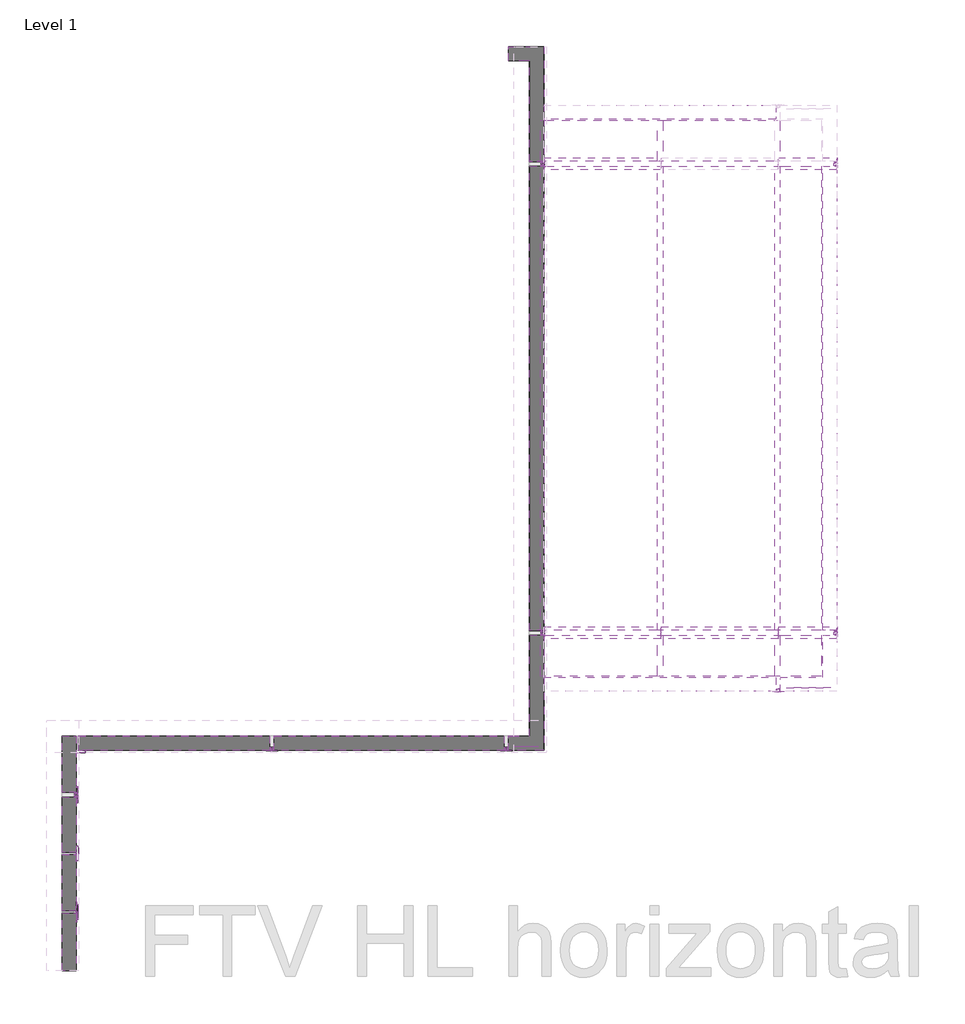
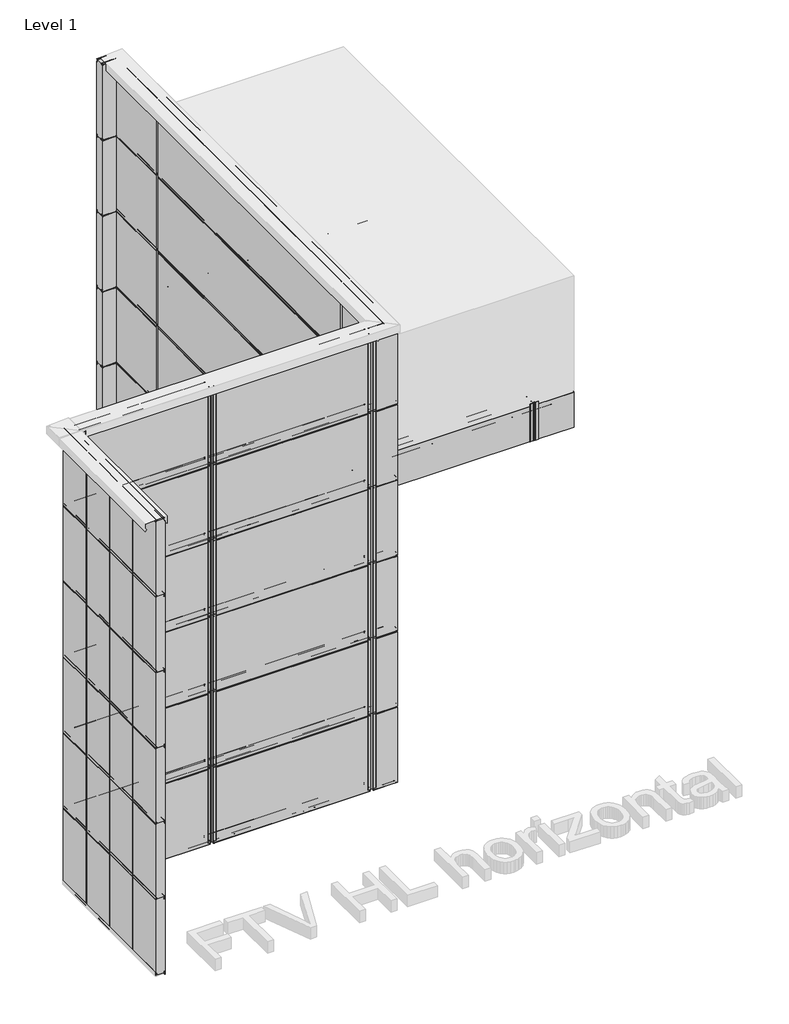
# One storey, part 1 of 12: 73 plates, 56 members.
"""IFC4 building model written with IfcOpenShell, lengths in millimetres."""

from ifc_helpers import new_model, si_unit, origin, place, context, project, spatial, transform, mapped, element, save
from components import rectangular_mullion_bb89daf4, rectangular_mullion_3d825509, rectangular_mullion_a47ee03b, rectangular_mullion_6308ee2a, rectangular_mullion_7144c495, rectangular_mullion_135eb77f, rectangular_mullion_4161400c, rectangular_mullion_02bb17b1, plate_120_ral9006_ral9002_5a172faf, plate_120_ral9006_ral9002_b45e4908, plate_120_ral9006_ral9002_d842c8b2, plate_120_ral9006_ral9002_880d7ee1, plate_120_ral9006_ral9002_aaf2c811, plate_120_ral9006_ral9002_4380068a, plate_120_ral9006_ral9002_0ac37183, plate_120_ral9006_ral9002_72948b92, plate_120_ral9006_ral9002_e030643e, plate_120_ral9006_ral9002_c30a51ce, plate_120_ral9006_ral9002_4ea340ee, plate_120_ral9006_ral9002_0ac6ffa4, plate_120_ral9006_ral9002_7929c230, plate_120_ral9006_ral9002_ec46e2fc, plate_120_ral9006_ral9002_0d4cb285, plate_120_ral9006_ral9002_1deed0a9, plate_120_ral9006_ral9002_22d1957b, tr_empty_empty_7661b975, tr_empty_empty_6663efe4

model = new_model("IFC4")

# Units and contexts
model_context = context("Model", 3, world=origin())
ifc_project = project(units=[si_unit("LENGTHUNIT", "METRE", prefix="MILLI")], contexts=[model_context])

# Site, building, storey
site = spatial("IfcSite", under=ifc_project)
building = spatial("IfcBuilding", under=site)
storey = spatial("IfcBuildingStorey", under=building, Name="Level 1", Elevation=0.0)

# Members
placement = place(None, origin())
rectangular_mullion_shape = rectangular_mullion_bb89daf4(model_context)
element("IfcMember", 1, ObjectType="Rectangular Mullion : TE-H-01_03_Joint HF102", at=placement, inside=storey, context=model_context, shape_type="MappedRepresentation", body=[
    mapped(rectangular_mullion_shape, transform((-1494.1155057, -11030.3930879, 4150.0), x_axis=(0.0, -1.0, 0.0), y_axis=(1.0, 0.0, 0.0), z_axis=(0.0, 0.0, 1.0))),
])
element("IfcMember", 2, ObjectType="Rectangular Mullion : TE-H-01_03_Joint HF102", at=placement, inside=storey, context=model_context, shape_type="MappedRepresentation", body=[
    mapped(rectangular_mullion_shape, transform((-1494.1155057, -7030.3930879, 4150.0), x_axis=(0.0, -1.0, 0.0), y_axis=(1.0, 0.0, 0.0), z_axis=(0.0, 0.0, 1.0))),
])
element("IfcMember", 3, ObjectType="Rectangular Mullion : TE-H-01_03_Joint HF102", at=placement, inside=storey, context=model_context, shape_type="MappedRepresentation", body=[
    mapped(rectangular_mullion_shape, transform((-1994.1155057, -11530.3930879, 4150.0), x_axis=(-1.0, 0.0, 0.0), y_axis=(0.0, -1.0, 0.0), z_axis=(0.0, 0.0, 1.0))),
])
rectangular_mullion_2_shape = rectangular_mullion_3d825509(model_context)
element("IfcMember", 4, ObjectType="Rectangular Mullion : TE-H-01_03_Joint HF102", at=placement, inside=storey, context=model_context, shape_type="MappedRepresentation", body=[
    mapped(rectangular_mullion_2_shape, transform((-1494.1155057, -7030.3930879, 3650.0), x_axis=(0.0, -1.0, 0.0), y_axis=(0.0, 0.0, -1.0), z_axis=(1.0, 0.0, 0.0))),
])
element("IfcMember", 5, ObjectType="Rectangular Mullion : TE-H-01_03_Joint HF102", at=placement, inside=storey, context=model_context, shape_type="MappedRepresentation", body=[
    mapped(rectangular_mullion_2_shape, transform((-1494.1155057, -11030.3930879, 3650.0), x_axis=(0.0, -1.0, 0.0), y_axis=(0.0, 0.0, -1.0), z_axis=(1.0, 0.0, 0.0))),
])
rectangular_mullion_3_shape = rectangular_mullion_a47ee03b(model_context)
element("IfcMember", 6, ObjectType="Rectangular Mullion : TE-H-01_03_Joint HF102", at=placement, inside=storey, context=model_context, shape_type="MappedRepresentation", body=[
    mapped(rectangular_mullion_3_shape, transform((-2994.1155057, -7030.3930879, 3650.0), x_axis=(0.0, -1.0, 0.0), y_axis=(0.0, 0.0, -1.0), z_axis=(1.0, 0.0, 0.0))),
])
element("IfcMember", 7, ObjectType="Rectangular Mullion : TE-H-01_03_Joint HF102", at=placement, inside=storey, context=model_context, shape_type="MappedRepresentation", body=[
    mapped(rectangular_mullion_3_shape, transform((-2994.1155057, -11030.3930879, 3650.0), x_axis=(0.0, -1.0, 0.0), y_axis=(0.0, 0.0, -1.0), z_axis=(1.0, 0.0, 0.0))),
])
element("IfcMember", 8, ObjectType="Rectangular Mullion : TE-H-01_03_Joint HF102", at=placement, inside=storey, context=model_context, shape_type="MappedRepresentation", body=[
    mapped(rectangular_mullion_3_shape, transform((-1994.1155057, -11030.3930879, 3650.0), x_axis=(0.0, -1.0, 0.0), y_axis=(0.0, 0.0, -1.0), z_axis=(1.0, 0.0, 0.0))),
])
rectangular_mullion_4_shape = rectangular_mullion_6308ee2a(model_context)
element("IfcMember", 9, ObjectType="Rectangular Mullion : TE-H-01_03_Joint HF102", at=placement, inside=storey, context=model_context, shape_type="MappedRepresentation", body=[
    mapped(rectangular_mullion_4_shape, transform((-3994.1155057, -7030.3930879, 1160.0), x_axis=(0.0, -1.0, 0.0), y_axis=(-1.0, 0.0, 0.0), z_axis=(0.0, 0.0, -1.0))),
])
element("IfcMember", 10, ObjectType="Rectangular Mullion : TE-H-01_03_Joint HF102", at=placement, inside=storey, context=model_context, shape_type="MappedRepresentation", body=[
    mapped(rectangular_mullion_4_shape, transform((-3994.1155057, -7030.3930879, 2160.0), x_axis=(0.0, -1.0, 0.0), y_axis=(-1.0, 0.0, 0.0), z_axis=(0.0, 0.0, -1.0))),
])
element("IfcMember", 11, ObjectType="Rectangular Mullion : TE-H-01_03_Joint HF102", at=placement, inside=storey, context=model_context, shape_type="MappedRepresentation", body=[
    mapped(rectangular_mullion_4_shape, transform((-3994.1155057, -7030.3930879, 3160.0), x_axis=(0.0, -1.0, 0.0), y_axis=(-1.0, 0.0, 0.0), z_axis=(0.0, 0.0, -1.0))),
])
element("IfcMember", 12, ObjectType="Rectangular Mullion : TE-H-01_03_Joint HF102", at=placement, inside=storey, context=model_context, shape_type="MappedRepresentation", body=[
    mapped(rectangular_mullion_4_shape, transform((-3994.1155057, -7030.3930879, 4160.0), x_axis=(0.0, -1.0, 0.0), y_axis=(-1.0, 0.0, 0.0), z_axis=(0.0, 0.0, -1.0))),
])
element("IfcMember", 13, ObjectType="Rectangular Mullion : TE-H-01_03_Joint HF102", at=placement, inside=storey, context=model_context, shape_type="MappedRepresentation", body=[
    mapped(rectangular_mullion_4_shape, transform((-3994.1155057, -11030.3930879, 1160.0), x_axis=(0.0, -1.0, 0.0), y_axis=(-1.0, 0.0, 0.0), z_axis=(0.0, 0.0, -1.0))),
])
element("IfcMember", 14, ObjectType="Rectangular Mullion : TE-H-01_03_Joint HF102", at=placement, inside=storey, context=model_context, shape_type="MappedRepresentation", body=[
    mapped(rectangular_mullion_4_shape, transform((-3994.1155057, -11030.3930879, 2160.0), x_axis=(0.0, -1.0, 0.0), y_axis=(-1.0, 0.0, 0.0), z_axis=(0.0, 0.0, -1.0))),
])
element("IfcMember", 15, ObjectType="Rectangular Mullion : TE-H-01_03_Joint HF102", at=placement, inside=storey, context=model_context, shape_type="MappedRepresentation", body=[
    mapped(rectangular_mullion_4_shape, transform((-3994.1155057, -11030.3930879, 3160.0), x_axis=(0.0, -1.0, 0.0), y_axis=(-1.0, 0.0, 0.0), z_axis=(0.0, 0.0, -1.0))),
])
element("IfcMember", 16, ObjectType="Rectangular Mullion : TE-H-01_03_Joint HF102", at=placement, inside=storey, context=model_context, shape_type="MappedRepresentation", body=[
    mapped(rectangular_mullion_4_shape, transform((-3994.1155057, -11030.3930879, 4160.0), x_axis=(0.0, -1.0, 0.0), y_axis=(-1.0, 0.0, 0.0), z_axis=(0.0, 0.0, -1.0))),
])
element("IfcMember", 17, ObjectType="Rectangular Mullion : TE-H-01_03_Joint HF102", at=placement, inside=storey, context=model_context, shape_type="MappedRepresentation", body=[
    mapped(rectangular_mullion_4_shape, transform((-4314.1155057, -12030.3930879, 1160.0), x_axis=(-1.0, 0.0, 0.0), y_axis=(0.0, 1.0, 0.0), z_axis=(0.0, 0.0, -1.0))),
])
element("IfcMember", 18, ObjectType="Rectangular Mullion : TE-H-01_03_Joint HF102", at=placement, inside=storey, context=model_context, shape_type="MappedRepresentation", body=[
    mapped(rectangular_mullion_4_shape, transform((-4314.1155057, -12030.3930879, 2160.0), x_axis=(-1.0, 0.0, 0.0), y_axis=(0.0, 1.0, 0.0), z_axis=(0.0, 0.0, -1.0))),
])
element("IfcMember", 19, ObjectType="Rectangular Mullion : TE-H-01_03_Joint HF102", at=placement, inside=storey, context=model_context, shape_type="MappedRepresentation", body=[
    mapped(rectangular_mullion_4_shape, transform((-4314.1155057, -12030.3930879, 3160.0), x_axis=(-1.0, 0.0, 0.0), y_axis=(0.0, 1.0, 0.0), z_axis=(0.0, 0.0, -1.0))),
])
element("IfcMember", 20, ObjectType="Rectangular Mullion : TE-H-01_03_Joint HF102", at=placement, inside=storey, context=model_context, shape_type="MappedRepresentation", body=[
    mapped(rectangular_mullion_4_shape, transform((-4314.1155057, -12030.3930879, 4160.0), x_axis=(-1.0, 0.0, 0.0), y_axis=(0.0, 1.0, 0.0), z_axis=(0.0, 0.0, -1.0))),
])
element("IfcMember", 21, ObjectType="Rectangular Mullion : TE-H-01_03_Joint HF102", at=placement, inside=storey, context=model_context, shape_type="MappedRepresentation", body=[
    mapped(rectangular_mullion_4_shape, transform((-6314.1155057, -12030.3930879, 1160.0), x_axis=(-1.0, 0.0, 0.0), y_axis=(0.0, 1.0, 0.0), z_axis=(0.0, 0.0, -1.0))),
])
element("IfcMember", 22, ObjectType="Rectangular Mullion : TE-H-01_03_Joint HF102", at=placement, inside=storey, context=model_context, shape_type="MappedRepresentation", body=[
    mapped(rectangular_mullion_4_shape, transform((-6314.1155057, -12030.3930879, 2160.0), x_axis=(-1.0, 0.0, 0.0), y_axis=(0.0, 1.0, 0.0), z_axis=(0.0, 0.0, -1.0))),
])
element("IfcMember", 23, ObjectType="Rectangular Mullion : TE-H-01_03_Joint HF102", at=placement, inside=storey, context=model_context, shape_type="MappedRepresentation", body=[
    mapped(rectangular_mullion_4_shape, transform((-6314.1155057, -12030.3930879, 3160.0), x_axis=(-1.0, 0.0, 0.0), y_axis=(0.0, 1.0, 0.0), z_axis=(0.0, 0.0, -1.0))),
])
element("IfcMember", 24, ObjectType="Rectangular Mullion : TE-H-01_03_Joint HF102", at=placement, inside=storey, context=model_context, shape_type="MappedRepresentation", body=[
    mapped(rectangular_mullion_4_shape, transform((-6314.1155057, -12030.3930879, 4160.0), x_axis=(-1.0, 0.0, 0.0), y_axis=(0.0, 1.0, 0.0), z_axis=(0.0, 0.0, -1.0))),
])
rectangular_mullion_5_shape = rectangular_mullion_7144c495(model_context)
element("IfcMember", 25, ObjectType="Rectangular Mullion : TE-H-01_04_Joint HF140", at=placement, inside=storey, context=model_context, shape_type="MappedRepresentation", body=[
    mapped(rectangular_mullion_5_shape, transform((-7984.1155057, -12411.1930879, 1160.0), x_axis=(0.0, -1.0, 0.0), y_axis=(-1.0, 0.0, 0.0), z_axis=(0.0, 0.0, -1.0))),
])
element("IfcMember", 26, ObjectType="Rectangular Mullion : TE-H-01_04_Joint HF140", at=placement, inside=storey, context=model_context, shape_type="MappedRepresentation", body=[
    mapped(rectangular_mullion_5_shape, transform((-7984.1155057, -12411.1930879, 2160.0), x_axis=(0.0, -1.0, 0.0), y_axis=(-1.0, 0.0, 0.0), z_axis=(0.0, 0.0, -1.0))),
])
element("IfcMember", 27, ObjectType="Rectangular Mullion : TE-H-01_04_Joint HF140", at=placement, inside=storey, context=model_context, shape_type="MappedRepresentation", body=[
    mapped(rectangular_mullion_5_shape, transform((-7984.1155057, -12411.1930879, 3160.0), x_axis=(0.0, -1.0, 0.0), y_axis=(-1.0, 0.0, 0.0), z_axis=(0.0, 0.0, -1.0))),
])
element("IfcMember", 28, ObjectType="Rectangular Mullion : TE-H-01_04_Joint HF140", at=placement, inside=storey, context=model_context, shape_type="MappedRepresentation", body=[
    mapped(rectangular_mullion_5_shape, transform((-7984.1155057, -12411.1930879, 4160.0), x_axis=(0.0, -1.0, 0.0), y_axis=(-1.0, 0.0, 0.0), z_axis=(0.0, 0.0, -1.0))),
])
rectangular_mullion_6_shape = rectangular_mullion_135eb77f(model_context)
element("IfcMember", 29, ObjectType="Rectangular Mullion : TE-H-01_01_Joint flashing", at=placement, inside=storey, context=model_context, shape_type="MappedRepresentation", body=[
    mapped(rectangular_mullion_6_shape, transform((-7984.1155057, -13411.1930879, 1160.0), x_axis=(0.0, -1.0, 0.0), y_axis=(-1.0, 0.0, 0.0), z_axis=(0.0, 0.0, -1.0))),
])
element("IfcMember", 30, ObjectType="Rectangular Mullion : TE-H-01_01_Joint flashing", at=placement, inside=storey, context=model_context, shape_type="MappedRepresentation", body=[
    mapped(rectangular_mullion_6_shape, transform((-7984.1155057, -13411.1930879, 2160.0), x_axis=(0.0, -1.0, 0.0), y_axis=(-1.0, 0.0, 0.0), z_axis=(0.0, 0.0, -1.0))),
])
element("IfcMember", 31, ObjectType="Rectangular Mullion : TE-H-01_01_Joint flashing", at=placement, inside=storey, context=model_context, shape_type="MappedRepresentation", body=[
    mapped(rectangular_mullion_6_shape, transform((-7984.1155057, -13411.1930879, 3160.0), x_axis=(0.0, -1.0, 0.0), y_axis=(-1.0, 0.0, 0.0), z_axis=(0.0, 0.0, -1.0))),
])
element("IfcMember", 32, ObjectType="Rectangular Mullion : TE-H-01_01_Joint flashing", at=placement, inside=storey, context=model_context, shape_type="MappedRepresentation", body=[
    mapped(rectangular_mullion_6_shape, transform((-7984.1155057, -13411.1930879, 4160.0), x_axis=(0.0, -1.0, 0.0), y_axis=(-1.0, 0.0, 0.0), z_axis=(0.0, 0.0, -1.0))),
])
rectangular_mullion_7_shape = rectangular_mullion_4161400c(model_context)
element("IfcMember", 33, ObjectType="Rectangular Mullion : TE-H-01_02_Joint flashing i", at=placement, inside=storey, context=model_context, shape_type="MappedRepresentation", body=[
    mapped(rectangular_mullion_7_shape, transform((-7984.1155057, -12911.1930879, 1160.0), x_axis=(0.0, -1.0, 0.0), y_axis=(-1.0, 0.0, 0.0), z_axis=(0.0, 0.0, -1.0))),
])
element("IfcMember", 34, ObjectType="Rectangular Mullion : TE-H-01_02_Joint flashing i", at=placement, inside=storey, context=model_context, shape_type="MappedRepresentation", body=[
    mapped(rectangular_mullion_7_shape, transform((-7984.1155057, -12911.1930879, 2160.0), x_axis=(0.0, -1.0, 0.0), y_axis=(-1.0, 0.0, 0.0), z_axis=(0.0, 0.0, -1.0))),
])
element("IfcMember", 35, ObjectType="Rectangular Mullion : TE-H-01_02_Joint flashing i", at=placement, inside=storey, context=model_context, shape_type="MappedRepresentation", body=[
    mapped(rectangular_mullion_7_shape, transform((-7984.1155057, -12911.1930879, 3160.0), x_axis=(0.0, -1.0, 0.0), y_axis=(-1.0, 0.0, 0.0), z_axis=(0.0, 0.0, -1.0))),
])
element("IfcMember", 36, ObjectType="Rectangular Mullion : TE-H-01_02_Joint flashing i", at=placement, inside=storey, context=model_context, shape_type="MappedRepresentation", body=[
    mapped(rectangular_mullion_7_shape, transform((-7984.1155057, -12911.1930879, 4160.0), x_axis=(0.0, -1.0, 0.0), y_axis=(-1.0, 0.0, 0.0), z_axis=(0.0, 0.0, -1.0))),
])
rectangular_mullion_8_shape = rectangular_mullion_02bb17b1(model_context)
element("IfcMember", 37, ObjectType="Rectangular Mullion : TE-H-05_02_Internal corner i L", at=placement, inside=storey, context=model_context, shape_type="MappedRepresentation", body=[
    mapped(rectangular_mullion_8_shape, transform((-7984.1155057, -12030.3930879, 1160.0), x_axis=(-1.0, 0.0, 0.0), y_axis=(0.0, 1.0, 0.0), z_axis=(0.0, 0.0, -1.0))),
])
element("IfcMember", 38, ObjectType="Rectangular Mullion : TE-H-05_02_Internal corner i L", at=placement, inside=storey, context=model_context, shape_type="MappedRepresentation", body=[
    mapped(rectangular_mullion_8_shape, transform((-7984.1155057, -12030.3930879, 2160.0), x_axis=(-1.0, 0.0, 0.0), y_axis=(0.0, 1.0, 0.0), z_axis=(0.0, 0.0, -1.0))),
])
element("IfcMember", 39, ObjectType="Rectangular Mullion : TE-H-05_02_Internal corner i L", at=placement, inside=storey, context=model_context, shape_type="MappedRepresentation", body=[
    mapped(rectangular_mullion_8_shape, transform((-7984.1155057, -12030.3930879, 3160.0), x_axis=(-1.0, 0.0, 0.0), y_axis=(0.0, 1.0, 0.0), z_axis=(0.0, 0.0, -1.0))),
])
element("IfcMember", 40, ObjectType="Rectangular Mullion : TE-H-05_02_Internal corner i L", at=placement, inside=storey, context=model_context, shape_type="MappedRepresentation", body=[
    mapped(rectangular_mullion_8_shape, transform((-7984.1155057, -12030.3930879, 4160.0), x_axis=(-1.0, 0.0, 0.0), y_axis=(0.0, 1.0, 0.0), z_axis=(0.0, 0.0, -1.0))),
])
element("IfcMember", 41, ObjectType="Rectangular Mullion : TE-H-01_04_Joint HF140", at=placement, inside=storey, context=model_context, shape_type="MappedRepresentation", body=[
    mapped(rectangular_mullion_5_shape, transform((-7984.1155057, -12411.1930879, 160.0), x_axis=(0.0, -1.0, 0.0), y_axis=(-1.0, 0.0, 0.0), z_axis=(0.0, 0.0, -1.0))),
])
element("IfcMember", 42, ObjectType="Rectangular Mullion : TE-H-01_04_Joint HF140", at=placement, inside=storey, context=model_context, shape_type="MappedRepresentation", body=[
    mapped(rectangular_mullion_5_shape, transform((-7984.1155057, -12411.1930879, 5160.0), x_axis=(0.0, -1.0, 0.0), y_axis=(-1.0, 0.0, 0.0), z_axis=(0.0, 0.0, -1.0))),
])
element("IfcMember", 43, ObjectType="Rectangular Mullion : TE-H-01_01_Joint flashing", at=placement, inside=storey, context=model_context, shape_type="MappedRepresentation", body=[
    mapped(rectangular_mullion_6_shape, transform((-7984.1155057, -13411.1930879, 160.0), x_axis=(0.0, -1.0, 0.0), y_axis=(-1.0, 0.0, 0.0), z_axis=(0.0, 0.0, -1.0))),
])
element("IfcMember", 44, ObjectType="Rectangular Mullion : TE-H-01_01_Joint flashing", at=placement, inside=storey, context=model_context, shape_type="MappedRepresentation", body=[
    mapped(rectangular_mullion_6_shape, transform((-7984.1155057, -13411.1930879, 5160.0), x_axis=(0.0, -1.0, 0.0), y_axis=(-1.0, 0.0, 0.0), z_axis=(0.0, 0.0, -1.0))),
])
element("IfcMember", 45, ObjectType="Rectangular Mullion : TE-H-01_02_Joint flashing i", at=placement, inside=storey, context=model_context, shape_type="MappedRepresentation", body=[
    mapped(rectangular_mullion_7_shape, transform((-7984.1155057, -12911.1930879, 160.0), x_axis=(0.0, -1.0, 0.0), y_axis=(-1.0, 0.0, 0.0), z_axis=(0.0, 0.0, -1.0))),
])
element("IfcMember", 46, ObjectType="Rectangular Mullion : TE-H-01_02_Joint flashing i", at=placement, inside=storey, context=model_context, shape_type="MappedRepresentation", body=[
    mapped(rectangular_mullion_7_shape, transform((-7984.1155057, -12911.1930879, 5160.0), x_axis=(0.0, -1.0, 0.0), y_axis=(-1.0, 0.0, 0.0), z_axis=(0.0, 0.0, -1.0))),
])
element("IfcMember", 47, ObjectType="Rectangular Mullion : TE-H-01_03_Joint HF102", at=placement, inside=storey, context=model_context, shape_type="MappedRepresentation", body=[
    mapped(rectangular_mullion_4_shape, transform((-3994.1155057, -7030.3930879, 160.0), x_axis=(0.0, -1.0, 0.0), y_axis=(-1.0, 0.0, 0.0), z_axis=(0.0, 0.0, -1.0))),
])
element("IfcMember", 48, ObjectType="Rectangular Mullion : TE-H-01_03_Joint HF102", at=placement, inside=storey, context=model_context, shape_type="MappedRepresentation", body=[
    mapped(rectangular_mullion_4_shape, transform((-3994.1155057, -11030.3930879, 160.0), x_axis=(0.0, -1.0, 0.0), y_axis=(-1.0, 0.0, 0.0), z_axis=(0.0, 0.0, -1.0))),
])
element("IfcMember", 49, ObjectType="Rectangular Mullion : TE-H-01_03_Joint HF102", at=placement, inside=storey, context=model_context, shape_type="MappedRepresentation", body=[
    mapped(rectangular_mullion_4_shape, transform((-4314.1155057, -12030.3930879, 160.0), x_axis=(-1.0, 0.0, 0.0), y_axis=(0.0, 1.0, 0.0), z_axis=(0.0, 0.0, -1.0))),
])
element("IfcMember", 50, ObjectType="Rectangular Mullion : TE-H-01_03_Joint HF102", at=placement, inside=storey, context=model_context, shape_type="MappedRepresentation", body=[
    mapped(rectangular_mullion_4_shape, transform((-6314.1155057, -12030.3930879, 160.0), x_axis=(-1.0, 0.0, 0.0), y_axis=(0.0, 1.0, 0.0), z_axis=(0.0, 0.0, -1.0))),
])
element("IfcMember", 51, ObjectType="Rectangular Mullion : TE-H-01_03_Joint HF102", at=placement, inside=storey, context=model_context, shape_type="MappedRepresentation", body=[
    mapped(rectangular_mullion_4_shape, transform((-3994.1155057, -7030.3930879, 5160.0), x_axis=(0.0, -1.0, 0.0), y_axis=(-1.0, 0.0, 0.0), z_axis=(0.0, 0.0, -1.0))),
])
element("IfcMember", 52, ObjectType="Rectangular Mullion : TE-H-01_03_Joint HF102", at=placement, inside=storey, context=model_context, shape_type="MappedRepresentation", body=[
    mapped(rectangular_mullion_4_shape, transform((-3994.1155057, -11030.3930879, 5160.0), x_axis=(0.0, -1.0, 0.0), y_axis=(-1.0, 0.0, 0.0), z_axis=(0.0, 0.0, -1.0))),
])
element("IfcMember", 53, ObjectType="Rectangular Mullion : TE-H-01_03_Joint HF102", at=placement, inside=storey, context=model_context, shape_type="MappedRepresentation", body=[
    mapped(rectangular_mullion_4_shape, transform((-4314.1155057, -12030.3930879, 5160.0), x_axis=(-1.0, 0.0, 0.0), y_axis=(0.0, 1.0, 0.0), z_axis=(0.0, 0.0, -1.0))),
])
element("IfcMember", 54, ObjectType="Rectangular Mullion : TE-H-01_03_Joint HF102", at=placement, inside=storey, context=model_context, shape_type="MappedRepresentation", body=[
    mapped(rectangular_mullion_4_shape, transform((-6314.1155057, -12030.3930879, 5160.0), x_axis=(-1.0, 0.0, 0.0), y_axis=(0.0, 1.0, 0.0), z_axis=(0.0, 0.0, -1.0))),
])
element("IfcMember", 55, ObjectType="Rectangular Mullion : TE-H-05_02_Internal corner i L", at=placement, inside=storey, context=model_context, shape_type="MappedRepresentation", body=[
    mapped(rectangular_mullion_8_shape, transform((-7984.1155057, -12030.3930879, 160.0), x_axis=(-1.0, 0.0, 0.0), y_axis=(0.0, 1.0, 0.0), z_axis=(0.0, 0.0, -1.0))),
])
element("IfcMember", 56, ObjectType="Rectangular Mullion : TE-H-05_02_Internal corner i L", at=placement, inside=storey, context=model_context, shape_type="MappedRepresentation", body=[
    mapped(rectangular_mullion_8_shape, transform((-7984.1155057, -12030.3930879, 5160.0), x_axis=(-1.0, 0.0, 0.0), y_axis=(0.0, 1.0, 0.0), z_axis=(0.0, 0.0, -1.0))),
])

# Plates
plate_120_ral9006_ral9002_shape = plate_120_ral9006_ral9002_5a172faf(model_context)
element("IfcPlate", 57, ObjectType="TR_C_H_FHL_Panel : 120/RAL9006/RAL9002", at=placement, inside=storey, context=model_context, shape_type="MappedRepresentation", body=[
    mapped(plate_120_ral9006_ral9002_shape, transform((-3994.1155057, -9030.3930879, 160.0), x_axis=(0.0, -1.0, 0.0), y_axis=(1.0, 0.0, 0.0), z_axis=(0.0, 0.0, 1.0))),
])
element("IfcPlate", 58, ObjectType="TR_C_H_FHL_Panel : 120/RAL9006/RAL9002", at=placement, inside=storey, context=model_context, shape_type="MappedRepresentation", body=[
    mapped(plate_120_ral9006_ral9002_shape, transform((-3994.1155057, -9030.3930879, 1160.0), x_axis=(0.0, -1.0, 0.0), y_axis=(1.0, 0.0, 0.0), z_axis=(0.0, 0.0, 1.0))),
])
element("IfcPlate", 59, ObjectType="TR_C_H_FHL_Panel : 120/RAL9006/RAL9002", at=placement, inside=storey, context=model_context, shape_type="MappedRepresentation", body=[
    mapped(plate_120_ral9006_ral9002_shape, transform((-3994.1155057, -9030.3930879, 2160.0), x_axis=(0.0, -1.0, 0.0), y_axis=(1.0, 0.0, 0.0), z_axis=(0.0, 0.0, 1.0))),
])
element("IfcPlate", 60, ObjectType="TR_C_H_FHL_Panel : 120/RAL9006/RAL9002", at=placement, inside=storey, context=model_context, shape_type="MappedRepresentation", body=[
    mapped(plate_120_ral9006_ral9002_shape, transform((-3994.1155057, -9030.3930879, 3160.0), x_axis=(0.0, -1.0, 0.0), y_axis=(1.0, 0.0, 0.0), z_axis=(0.0, 0.0, 1.0))),
])
element("IfcPlate", 61, ObjectType="TR_C_H_FHL_Panel : 120/RAL9006/RAL9002", at=placement, inside=storey, context=model_context, shape_type="MappedRepresentation", body=[
    mapped(plate_120_ral9006_ral9002_shape, transform((-3994.1155057, -9030.3930879, 4160.0), x_axis=(0.0, -1.0, 0.0), y_axis=(1.0, 0.0, 0.0), z_axis=(0.0, 0.0, 1.0))),
])
element("IfcPlate", 62, ObjectType="TR_C_H_FHL_Panel : 120/RAL9006/RAL9002", at=placement, inside=storey, context=model_context, shape_type="MappedRepresentation", body=[
    mapped(plate_120_ral9006_ral9002_shape, transform((-3994.1155057, -9030.3930879, 3650.0), x_axis=(0.0, -1.0, 0.0), y_axis=(0.0, 0.0, -1.0), z_axis=(1.0, 0.0, 0.0))),
])
element("IfcPlate", 63, ObjectType="TR_C_H_FHL_Panel : 120/RAL9006/RAL9002", at=placement, inside=storey, context=model_context, shape_type="MappedRepresentation", body=[
    mapped(plate_120_ral9006_ral9002_shape, transform((-2994.1155057, -9030.3930879, 3650.0), x_axis=(0.0, -1.0, 0.0), y_axis=(0.0, 0.0, -1.0), z_axis=(1.0, 0.0, 0.0))),
])
element("IfcPlate", 64, ObjectType="TR_C_H_FHL_Panel : 120/RAL9006/RAL9002", at=placement, inside=storey, context=model_context, shape_type="MappedRepresentation", body=[
    mapped(plate_120_ral9006_ral9002_shape, transform((-3994.1155057, -9030.3930879, 5160.0), x_axis=(0.0, -1.0, 0.0), y_axis=(1.0, 0.0, 0.0), z_axis=(0.0, 0.0, 1.0))),
])
plate_120_ral9006_ral9002_2_shape = plate_120_ral9006_ral9002_b45e4908(model_context)
element("IfcPlate", 65, ObjectType="TR_C_H_FHL_Panel : 120/RAL9006/RAL9002", at=placement, inside=storey, context=model_context, shape_type="MappedRepresentation", body=[
    mapped(plate_120_ral9006_ral9002_2_shape, transform((-3994.1155057, -6770.3930879, 3650.0), x_axis=(0.0, -1.0, 0.0), y_axis=(0.0, 0.0, -1.0), z_axis=(1.0, 0.0, 0.0))),
])
element("IfcPlate", 66, ObjectType="TR_C_H_FHL_Panel : 120/RAL9006/RAL9002", at=placement, inside=storey, context=model_context, shape_type="MappedRepresentation", body=[
    mapped(plate_120_ral9006_ral9002_2_shape, transform((-2994.1155057, -6770.3930879, 3650.0), x_axis=(0.0, -1.0, 0.0), y_axis=(0.0, 0.0, -1.0), z_axis=(1.0, 0.0, 0.0))),
])
plate_120_ral9006_ral9002_3_shape = plate_120_ral9006_ral9002_d842c8b2(model_context)
element("IfcPlate", 67, ObjectType="TR_C_H_FHL_Panel : 120/RAL9006/RAL9002", at=placement, inside=storey, context=model_context, shape_type="MappedRepresentation", body=[
    mapped(plate_120_ral9006_ral9002_3_shape, transform((-3994.1155057, -11290.3930879, 3650.0), x_axis=(0.0, -1.0, 0.0), y_axis=(0.0, 0.0, -1.0), z_axis=(1.0, 0.0, 0.0))),
])
element("IfcPlate", 68, ObjectType="TR_C_H_FHL_Panel : 120/RAL9006/RAL9002", at=placement, inside=storey, context=model_context, shape_type="MappedRepresentation", body=[
    mapped(plate_120_ral9006_ral9002_3_shape, transform((-2994.1155057, -11290.3930879, 3650.0), x_axis=(0.0, -1.0, 0.0), y_axis=(0.0, 0.0, -1.0), z_axis=(1.0, 0.0, 0.0))),
])
plate_120_ral9006_ral9002_4_shape = plate_120_ral9006_ral9002_880d7ee1(model_context)
element("IfcPlate", 69, ObjectType="TR_C_H_FHL_Panel_cut_GROOVE : 120/RAL9006/RAL9002", at=placement, inside=storey, context=model_context, shape_type="MappedRepresentation", body=[
    mapped(plate_120_ral9006_ral9002_4_shape, transform((-1994.1155057, -9030.3930879, 3650.0), x_axis=(0.0, -1.0, 0.0), y_axis=(0.0, 0.0, -1.0), z_axis=(1.0, 0.0, 0.0))),
])
plate_120_ral9006_ral9002_5_shape = plate_120_ral9006_ral9002_aaf2c811(model_context)
element("IfcPlate", 70, ObjectType="TR_C_H_FHL_Panel_cut_GROOVE : 120/RAL9006/RAL9002", at=placement, inside=storey, context=model_context, shape_type="MappedRepresentation", body=[
    mapped(plate_120_ral9006_ral9002_5_shape, transform((-1994.1155057, -11290.3930879, 3650.0), x_axis=(0.0, -1.0, 0.0), y_axis=(0.0, 0.0, -1.0), z_axis=(1.0, 0.0, 0.0))),
])
plate_120_ral9006_ral9002_6_shape = plate_120_ral9006_ral9002_4380068a(model_context)
element("IfcPlate", 71, ObjectType="TR_C_H_FHL_Panel_cut_TONGUE : 120/RAL9006/RAL9002", at=placement, inside=storey, context=model_context, shape_type="MappedRepresentation", body=[
    mapped(plate_120_ral9006_ral9002_6_shape, transform((-3004.1155057, -6530.3930879, 3650.0), x_axis=(1.0, 0.0, 0.0), y_axis=(0.0, 1.0, 0.0), z_axis=(0.0, 0.0, 1.0))),
])
element("IfcPlate", 72, ObjectType="TR_C_H_FHL_Panel_cut_TONGUE : 120/RAL9006/RAL9002", at=placement, inside=storey, context=model_context, shape_type="MappedRepresentation", body=[
    mapped(plate_120_ral9006_ral9002_6_shape, transform((-3004.1155057, -11530.3930879, 3650.0), x_axis=(-1.0, 0.0, 0.0), y_axis=(0.0, -1.0, 0.0), z_axis=(0.0, 0.0, 1.0))),
])
plate_120_ral9006_ral9002_7_shape = plate_120_ral9006_ral9002_0ac37183(model_context)
element("IfcPlate", 73, ObjectType="TR_C_H_FHL_Panel_cut_TONGUE : 120/RAL9006/RAL9002", at=placement, inside=storey, context=model_context, shape_type="MappedRepresentation", body=[
    mapped(plate_120_ral9006_ral9002_7_shape, transform((-1494.1155057, -9030.3930879, 3650.0), x_axis=(0.0, -1.0, 0.0), y_axis=(1.0, 0.0, 0.0), z_axis=(0.0, 0.0, 1.0))),
])
plate_120_ral9006_ral9002_8_shape = plate_120_ral9006_ral9002_72948b92(model_context)
element("IfcPlate", 74, ObjectType="TR_C_H_FHL_Panel : 120/RAL9006/RAL9002", at=placement, inside=storey, context=model_context, shape_type="MappedRepresentation", body=[
    mapped(plate_120_ral9006_ral9002_8_shape, transform((-7984.1155057, -12151.1930879, 160.0), x_axis=(0.0, -1.0, 0.0), y_axis=(1.0, 0.0, 0.0), z_axis=(0.0, 0.0, 1.0))),
])
element("IfcPlate", 75, ObjectType="TR_C_H_FHL_Panel : 120/RAL9006/RAL9002", at=placement, inside=storey, context=model_context, shape_type="MappedRepresentation", body=[
    mapped(plate_120_ral9006_ral9002_8_shape, transform((-7984.1155057, -12151.1930879, 1160.0), x_axis=(0.0, -1.0, 0.0), y_axis=(1.0, 0.0, 0.0), z_axis=(0.0, 0.0, 1.0))),
])
element("IfcPlate", 76, ObjectType="TR_C_H_FHL_Panel : 120/RAL9006/RAL9002", at=placement, inside=storey, context=model_context, shape_type="MappedRepresentation", body=[
    mapped(plate_120_ral9006_ral9002_8_shape, transform((-7984.1155057, -12151.1930879, 2160.0), x_axis=(0.0, -1.0, 0.0), y_axis=(1.0, 0.0, 0.0), z_axis=(0.0, 0.0, 1.0))),
])
element("IfcPlate", 77, ObjectType="TR_C_H_FHL_Panel : 120/RAL9006/RAL9002", at=placement, inside=storey, context=model_context, shape_type="MappedRepresentation", body=[
    mapped(plate_120_ral9006_ral9002_8_shape, transform((-7984.1155057, -12151.1930879, 3160.0), x_axis=(0.0, -1.0, 0.0), y_axis=(1.0, 0.0, 0.0), z_axis=(0.0, 0.0, 1.0))),
])
element("IfcPlate", 78, ObjectType="TR_C_H_FHL_Panel : 120/RAL9006/RAL9002", at=placement, inside=storey, context=model_context, shape_type="MappedRepresentation", body=[
    mapped(plate_120_ral9006_ral9002_8_shape, transform((-7984.1155057, -12151.1930879, 4160.0), x_axis=(0.0, -1.0, 0.0), y_axis=(1.0, 0.0, 0.0), z_axis=(0.0, 0.0, 1.0))),
])
element("IfcPlate", 79, ObjectType="TR_C_H_FHL_Panel : 120/RAL9006/RAL9002", at=placement, inside=storey, context=model_context, shape_type="MappedRepresentation", body=[
    mapped(plate_120_ral9006_ral9002_8_shape, transform((-7984.1155057, -13161.1930879, 160.0), x_axis=(0.0, -1.0, 0.0), y_axis=(1.0, 0.0, 0.0), z_axis=(0.0, 0.0, 1.0))),
])
element("IfcPlate", 80, ObjectType="TR_C_H_FHL_Panel : 120/RAL9006/RAL9002", at=placement, inside=storey, context=model_context, shape_type="MappedRepresentation", body=[
    mapped(plate_120_ral9006_ral9002_8_shape, transform((-7984.1155057, -13161.1930879, 1160.0), x_axis=(0.0, -1.0, 0.0), y_axis=(1.0, 0.0, 0.0), z_axis=(0.0, 0.0, 1.0))),
])
element("IfcPlate", 81, ObjectType="TR_C_H_FHL_Panel : 120/RAL9006/RAL9002", at=placement, inside=storey, context=model_context, shape_type="MappedRepresentation", body=[
    mapped(plate_120_ral9006_ral9002_8_shape, transform((-7984.1155057, -13161.1930879, 2160.0), x_axis=(0.0, -1.0, 0.0), y_axis=(1.0, 0.0, 0.0), z_axis=(0.0, 0.0, 1.0))),
])
element("IfcPlate", 82, ObjectType="TR_C_H_FHL_Panel : 120/RAL9006/RAL9002", at=placement, inside=storey, context=model_context, shape_type="MappedRepresentation", body=[
    mapped(plate_120_ral9006_ral9002_8_shape, transform((-7984.1155057, -13161.1930879, 3160.0), x_axis=(0.0, -1.0, 0.0), y_axis=(1.0, 0.0, 0.0), z_axis=(0.0, 0.0, 1.0))),
])
element("IfcPlate", 83, ObjectType="TR_C_H_FHL_Panel : 120/RAL9006/RAL9002", at=placement, inside=storey, context=model_context, shape_type="MappedRepresentation", body=[
    mapped(plate_120_ral9006_ral9002_8_shape, transform((-7984.1155057, -13161.1930879, 4160.0), x_axis=(0.0, -1.0, 0.0), y_axis=(1.0, 0.0, 0.0), z_axis=(0.0, 0.0, 1.0))),
])
element("IfcPlate", 84, ObjectType="TR_C_H_FHL_Panel : 120/RAL9006/RAL9002", at=placement, inside=storey, context=model_context, shape_type="MappedRepresentation", body=[
    mapped(plate_120_ral9006_ral9002_8_shape, transform((-7984.1155057, -12151.1930879, 5160.0), x_axis=(0.0, -1.0, 0.0), y_axis=(1.0, 0.0, 0.0), z_axis=(0.0, 0.0, 1.0))),
])
element("IfcPlate", 85, ObjectType="TR_C_H_FHL_Panel : 120/RAL9006/RAL9002", at=placement, inside=storey, context=model_context, shape_type="MappedRepresentation", body=[
    mapped(plate_120_ral9006_ral9002_8_shape, transform((-7984.1155057, -13161.1930879, 5160.0), x_axis=(0.0, -1.0, 0.0), y_axis=(1.0, 0.0, 0.0), z_axis=(0.0, 0.0, 1.0))),
])
plate_120_ral9006_ral9002_9_shape = plate_120_ral9006_ral9002_e030643e(model_context)
element("IfcPlate", 86, ObjectType="TR_C_H_FHL_Panel : 120/RAL9006/RAL9002", at=placement, inside=storey, context=model_context, shape_type="MappedRepresentation", body=[
    mapped(plate_120_ral9006_ral9002_9_shape, transform((-7984.1155057, -12666.1930879, 160.0), x_axis=(0.0, -1.0, 0.0), y_axis=(1.0, 0.0, 0.0), z_axis=(0.0, 0.0, 1.0))),
])
element("IfcPlate", 87, ObjectType="TR_C_H_FHL_Panel : 120/RAL9006/RAL9002", at=placement, inside=storey, context=model_context, shape_type="MappedRepresentation", body=[
    mapped(plate_120_ral9006_ral9002_9_shape, transform((-7984.1155057, -12666.1930879, 1160.0), x_axis=(0.0, -1.0, 0.0), y_axis=(1.0, 0.0, 0.0), z_axis=(0.0, 0.0, 1.0))),
])
element("IfcPlate", 88, ObjectType="TR_C_H_FHL_Panel : 120/RAL9006/RAL9002", at=placement, inside=storey, context=model_context, shape_type="MappedRepresentation", body=[
    mapped(plate_120_ral9006_ral9002_9_shape, transform((-7984.1155057, -12666.1930879, 2160.0), x_axis=(0.0, -1.0, 0.0), y_axis=(1.0, 0.0, 0.0), z_axis=(0.0, 0.0, 1.0))),
])
element("IfcPlate", 89, ObjectType="TR_C_H_FHL_Panel : 120/RAL9006/RAL9002", at=placement, inside=storey, context=model_context, shape_type="MappedRepresentation", body=[
    mapped(plate_120_ral9006_ral9002_9_shape, transform((-7984.1155057, -12666.1930879, 3160.0), x_axis=(0.0, -1.0, 0.0), y_axis=(1.0, 0.0, 0.0), z_axis=(0.0, 0.0, 1.0))),
])
element("IfcPlate", 90, ObjectType="TR_C_H_FHL_Panel : 120/RAL9006/RAL9002", at=placement, inside=storey, context=model_context, shape_type="MappedRepresentation", body=[
    mapped(plate_120_ral9006_ral9002_9_shape, transform((-7984.1155057, -12666.1930879, 4160.0), x_axis=(0.0, -1.0, 0.0), y_axis=(1.0, 0.0, 0.0), z_axis=(0.0, 0.0, 1.0))),
])
element("IfcPlate", 91, ObjectType="TR_C_H_FHL_Panel : 120/RAL9006/RAL9002", at=placement, inside=storey, context=model_context, shape_type="MappedRepresentation", body=[
    mapped(plate_120_ral9006_ral9002_9_shape, transform((-7984.1155057, -12666.1930879, 5160.0), x_axis=(0.0, -1.0, 0.0), y_axis=(1.0, 0.0, 0.0), z_axis=(0.0, 0.0, 1.0))),
])
plate_120_ral9006_ral9002_10_shape = plate_120_ral9006_ral9002_c30a51ce(model_context)
element("IfcPlate", 92, ObjectType="TR_C_H_FHL_Panel : 120/RAL9006/RAL9002", at=placement, inside=storey, context=model_context, shape_type="MappedRepresentation", body=[
    mapped(plate_120_ral9006_ral9002_10_shape, transform((-7984.1155057, -13666.1930879, 160.0), x_axis=(0.0, -1.0, 0.0), y_axis=(1.0, 0.0, 0.0), z_axis=(0.0, 0.0, 1.0))),
])
element("IfcPlate", 93, ObjectType="TR_C_H_FHL_Panel : 120/RAL9006/RAL9002", at=placement, inside=storey, context=model_context, shape_type="MappedRepresentation", body=[
    mapped(plate_120_ral9006_ral9002_10_shape, transform((-7984.1155057, -13666.1930879, 1160.0), x_axis=(0.0, -1.0, 0.0), y_axis=(1.0, 0.0, 0.0), z_axis=(0.0, 0.0, 1.0))),
])
element("IfcPlate", 94, ObjectType="TR_C_H_FHL_Panel : 120/RAL9006/RAL9002", at=placement, inside=storey, context=model_context, shape_type="MappedRepresentation", body=[
    mapped(plate_120_ral9006_ral9002_10_shape, transform((-7984.1155057, -13666.1930879, 2160.0), x_axis=(0.0, -1.0, 0.0), y_axis=(1.0, 0.0, 0.0), z_axis=(0.0, 0.0, 1.0))),
])
element("IfcPlate", 95, ObjectType="TR_C_H_FHL_Panel : 120/RAL9006/RAL9002", at=placement, inside=storey, context=model_context, shape_type="MappedRepresentation", body=[
    mapped(plate_120_ral9006_ral9002_10_shape, transform((-7984.1155057, -13666.1930879, 3160.0), x_axis=(0.0, -1.0, 0.0), y_axis=(1.0, 0.0, 0.0), z_axis=(0.0, 0.0, 1.0))),
])
element("IfcPlate", 96, ObjectType="TR_C_H_FHL_Panel : 120/RAL9006/RAL9002", at=placement, inside=storey, context=model_context, shape_type="MappedRepresentation", body=[
    mapped(plate_120_ral9006_ral9002_10_shape, transform((-7984.1155057, -13666.1930879, 4160.0), x_axis=(0.0, -1.0, 0.0), y_axis=(1.0, 0.0, 0.0), z_axis=(0.0, 0.0, 1.0))),
])
element("IfcPlate", 97, ObjectType="TR_C_H_FHL_Panel : 120/RAL9006/RAL9002", at=placement, inside=storey, context=model_context, shape_type="MappedRepresentation", body=[
    mapped(plate_120_ral9006_ral9002_10_shape, transform((-7984.1155057, -13666.1930879, 5160.0), x_axis=(0.0, -1.0, 0.0), y_axis=(1.0, 0.0, 0.0), z_axis=(0.0, 0.0, 1.0))),
])
plate_120_ral9006_ral9002_11_shape = plate_120_ral9006_ral9002_4ea340ee(model_context)
element("IfcPlate", 98, ObjectType="TR_C_H_FHL_Panel : 120/RAL9006/RAL9002", at=placement, inside=storey, context=model_context, shape_type="MappedRepresentation", body=[
    mapped(plate_120_ral9006_ral9002_11_shape, transform((-5314.1155057, -12030.3930879, 160.0), x_axis=(-1.0, 0.0, 0.0), y_axis=(0.0, -1.0, 0.0), z_axis=(0.0, 0.0, 1.0))),
])
element("IfcPlate", 99, ObjectType="TR_C_H_FHL_Panel : 120/RAL9006/RAL9002", at=placement, inside=storey, context=model_context, shape_type="MappedRepresentation", body=[
    mapped(plate_120_ral9006_ral9002_11_shape, transform((-5314.1155057, -12030.3930879, 1160.0), x_axis=(-1.0, 0.0, 0.0), y_axis=(0.0, -1.0, 0.0), z_axis=(0.0, 0.0, 1.0))),
])
element("IfcPlate", 100, ObjectType="TR_C_H_FHL_Panel : 120/RAL9006/RAL9002", at=placement, inside=storey, context=model_context, shape_type="MappedRepresentation", body=[
    mapped(plate_120_ral9006_ral9002_11_shape, transform((-5314.1155057, -12030.3930879, 2160.0), x_axis=(-1.0, 0.0, 0.0), y_axis=(0.0, -1.0, 0.0), z_axis=(0.0, 0.0, 1.0))),
])
element("IfcPlate", 101, ObjectType="TR_C_H_FHL_Panel : 120/RAL9006/RAL9002", at=placement, inside=storey, context=model_context, shape_type="MappedRepresentation", body=[
    mapped(plate_120_ral9006_ral9002_11_shape, transform((-5314.1155057, -12030.3930879, 3160.0), x_axis=(-1.0, 0.0, 0.0), y_axis=(0.0, -1.0, 0.0), z_axis=(0.0, 0.0, 1.0))),
])
element("IfcPlate", 102, ObjectType="TR_C_H_FHL_Panel : 120/RAL9006/RAL9002", at=placement, inside=storey, context=model_context, shape_type="MappedRepresentation", body=[
    mapped(plate_120_ral9006_ral9002_11_shape, transform((-5314.1155057, -12030.3930879, 4160.0), x_axis=(-1.0, 0.0, 0.0), y_axis=(0.0, -1.0, 0.0), z_axis=(0.0, 0.0, 1.0))),
])
element("IfcPlate", 103, ObjectType="TR_C_H_FHL_Panel : 120/RAL9006/RAL9002", at=placement, inside=storey, context=model_context, shape_type="MappedRepresentation", body=[
    mapped(plate_120_ral9006_ral9002_11_shape, transform((-5314.1155057, -12030.3930879, 5160.0), x_axis=(-1.0, 0.0, 0.0), y_axis=(0.0, -1.0, 0.0), z_axis=(0.0, 0.0, 1.0))),
])
plate_120_ral9006_ral9002_12_shape = plate_120_ral9006_ral9002_0ac6ffa4(model_context)
element("IfcPlate", 104, ObjectType="TR_C_H_FHL_Panel : 120/RAL9006/RAL9002", at=placement, inside=storey, context=model_context, shape_type="MappedRepresentation", body=[
    mapped(plate_120_ral9006_ral9002_12_shape, transform((-7149.5155057, -12030.3930879, 160.0), x_axis=(-1.0, 0.0, 0.0), y_axis=(0.0, -1.0, 0.0), z_axis=(0.0, 0.0, 1.0))),
])
element("IfcPlate", 105, ObjectType="TR_C_H_FHL_Panel : 120/RAL9006/RAL9002", at=placement, inside=storey, context=model_context, shape_type="MappedRepresentation", body=[
    mapped(plate_120_ral9006_ral9002_12_shape, transform((-7149.5155057, -12030.3930879, 1160.0), x_axis=(-1.0, 0.0, 0.0), y_axis=(0.0, -1.0, 0.0), z_axis=(0.0, 0.0, 1.0))),
])
element("IfcPlate", 106, ObjectType="TR_C_H_FHL_Panel : 120/RAL9006/RAL9002", at=placement, inside=storey, context=model_context, shape_type="MappedRepresentation", body=[
    mapped(plate_120_ral9006_ral9002_12_shape, transform((-7149.5155057, -12030.3930879, 2160.0), x_axis=(-1.0, 0.0, 0.0), y_axis=(0.0, -1.0, 0.0), z_axis=(0.0, 0.0, 1.0))),
])
element("IfcPlate", 107, ObjectType="TR_C_H_FHL_Panel : 120/RAL9006/RAL9002", at=placement, inside=storey, context=model_context, shape_type="MappedRepresentation", body=[
    mapped(plate_120_ral9006_ral9002_12_shape, transform((-7149.5155057, -12030.3930879, 3160.0), x_axis=(-1.0, 0.0, 0.0), y_axis=(0.0, -1.0, 0.0), z_axis=(0.0, 0.0, 1.0))),
])
element("IfcPlate", 108, ObjectType="TR_C_H_FHL_Panel : 120/RAL9006/RAL9002", at=placement, inside=storey, context=model_context, shape_type="MappedRepresentation", body=[
    mapped(plate_120_ral9006_ral9002_12_shape, transform((-7149.5155057, -12030.3930879, 4160.0), x_axis=(-1.0, 0.0, 0.0), y_axis=(0.0, -1.0, 0.0), z_axis=(0.0, 0.0, 1.0))),
])
element("IfcPlate", 109, ObjectType="TR_C_H_FHL_Panel : 120/RAL9006/RAL9002", at=placement, inside=storey, context=model_context, shape_type="MappedRepresentation", body=[
    mapped(plate_120_ral9006_ral9002_12_shape, transform((-7149.5155057, -12030.3930879, 5160.0), x_axis=(-1.0, 0.0, 0.0), y_axis=(0.0, -1.0, 0.0), z_axis=(0.0, 0.0, 1.0))),
])
plate_120_ral9006_ral9002_13_shape = plate_120_ral9006_ral9002_7929c230(model_context)
element("IfcPlate", 110, ObjectType="TR_C_H_FHL_Corner_Tr_A_cut_TONGUE : 120/RAL9006/RAL9002", at=placement, inside=storey, context=model_context, shape_type="MappedRepresentation", body=[
    mapped(plate_120_ral9006_ral9002_13_shape, transform((-1494.1155057, -11290.3930879, 3650.0), x_axis=(0.0, -1.0, 0.0), y_axis=(1.0, 0.0, 0.0), z_axis=(0.0, 0.0, 1.0))),
])
plate_120_ral9006_ral9002_14_shape = plate_120_ral9006_ral9002_ec46e2fc(model_context)
plate_120_ral9006_ral9002_15_shape = plate_120_ral9006_ral9002_0d4cb285(model_context)
element("IfcPlate", 111, ObjectType="TR_C_H_FHL_Corner_Tr_A : 120/RAL9006/RAL9002", at=placement, inside=storey, context=model_context, shape_type="MappedRepresentation", body=[
    mapped(plate_120_ral9006_ral9002_14_shape, transform((-3994.1155057, -11540.3930879, 160.0), x_axis=(0.0, -1.0, 0.0), y_axis=(1.0, 0.0, 0.0), z_axis=(0.0, 0.0, 1.0))),
    mapped(plate_120_ral9006_ral9002_15_shape, transform((-3994.1155057, -11540.3930879, 160.0), x_axis=(0.0, -1.0, 0.0), y_axis=(1.0, 0.0, 0.0), z_axis=(0.0, 0.0, 1.0))),
])
element("IfcPlate", 112, ObjectType="TR_C_H_FHL_Corner_Tr_A : 120/RAL9006/RAL9002", at=placement, inside=storey, context=model_context, shape_type="MappedRepresentation", body=[
    mapped(plate_120_ral9006_ral9002_14_shape, transform((-3994.1155057, -11540.3930879, 1160.0), x_axis=(0.0, -1.0, 0.0), y_axis=(1.0, 0.0, 0.0), z_axis=(0.0, 0.0, 1.0))),
    mapped(plate_120_ral9006_ral9002_15_shape, transform((-3994.1155057, -11540.3930879, 1160.0), x_axis=(0.0, -1.0, 0.0), y_axis=(1.0, 0.0, 0.0), z_axis=(0.0, 0.0, 1.0))),
])
element("IfcPlate", 113, ObjectType="TR_C_H_FHL_Corner_Tr_A : 120/RAL9006/RAL9002", at=placement, inside=storey, context=model_context, shape_type="MappedRepresentation", body=[
    mapped(plate_120_ral9006_ral9002_14_shape, transform((-3994.1155057, -11540.3930879, 2160.0), x_axis=(0.0, -1.0, 0.0), y_axis=(1.0, 0.0, 0.0), z_axis=(0.0, 0.0, 1.0))),
    mapped(plate_120_ral9006_ral9002_15_shape, transform((-3994.1155057, -11540.3930879, 2160.0), x_axis=(0.0, -1.0, 0.0), y_axis=(1.0, 0.0, 0.0), z_axis=(0.0, 0.0, 1.0))),
])
element("IfcPlate", 114, ObjectType="TR_C_H_FHL_Corner_Tr_A : 120/RAL9006/RAL9002", at=placement, inside=storey, context=model_context, shape_type="MappedRepresentation", body=[
    mapped(plate_120_ral9006_ral9002_14_shape, transform((-3994.1155057, -11540.3930879, 3160.0), x_axis=(0.0, -1.0, 0.0), y_axis=(1.0, 0.0, 0.0), z_axis=(0.0, 0.0, 1.0))),
    mapped(plate_120_ral9006_ral9002_15_shape, transform((-3994.1155057, -11540.3930879, 3160.0), x_axis=(0.0, -1.0, 0.0), y_axis=(1.0, 0.0, 0.0), z_axis=(0.0, 0.0, 1.0))),
])
element("IfcPlate", 115, ObjectType="TR_C_H_FHL_Corner_Tr_A : 120/RAL9006/RAL9002", at=placement, inside=storey, context=model_context, shape_type="MappedRepresentation", body=[
    mapped(plate_120_ral9006_ral9002_14_shape, transform((-3994.1155057, -11540.3930879, 4160.0), x_axis=(0.0, -1.0, 0.0), y_axis=(1.0, 0.0, 0.0), z_axis=(0.0, 0.0, 1.0))),
    mapped(plate_120_ral9006_ral9002_15_shape, transform((-3994.1155057, -11540.3930879, 4160.0), x_axis=(0.0, -1.0, 0.0), y_axis=(1.0, 0.0, 0.0), z_axis=(0.0, 0.0, 1.0))),
])
element("IfcPlate", 116, ObjectType="TR_C_H_FHL_Corner_Tr_A : 120/RAL9006/RAL9002", at=placement, inside=storey, context=model_context, shape_type="MappedRepresentation", body=[
    mapped(plate_120_ral9006_ral9002_14_shape, transform((-3994.1155057, -11540.3930879, 5160.0), x_axis=(0.0, -1.0, 0.0), y_axis=(1.0, 0.0, 0.0), z_axis=(0.0, 0.0, 1.0))),
    mapped(plate_120_ral9006_ral9002_15_shape, transform((-3994.1155057, -11540.3930879, 5160.0), x_axis=(0.0, -1.0, 0.0), y_axis=(1.0, 0.0, 0.0), z_axis=(0.0, 0.0, 1.0))),
])
plate_120_ral9006_ral9002_16_shape = plate_120_ral9006_ral9002_1deed0a9(model_context)
plate_120_ral9006_ral9002_17_shape = plate_120_ral9006_ral9002_22d1957b(model_context)
element("IfcPlate", 117, ObjectType="TR_C_H_FHL_Corner_Tr_B : 120/RAL9006/RAL9002", at=placement, inside=storey, context=model_context, shape_type="MappedRepresentation", body=[
    mapped(plate_120_ral9006_ral9002_16_shape, transform((-3994.1155057, -6520.3930879, 160.0), x_axis=(0.0, -1.0, 0.0), y_axis=(1.0, 0.0, 0.0), z_axis=(0.0, 0.0, 1.0))),
    mapped(plate_120_ral9006_ral9002_17_shape, transform((-3994.1155057, -6520.3930879, 160.0), x_axis=(0.0, -1.0, 0.0), y_axis=(1.0, 0.0, 0.0), z_axis=(0.0, 0.0, 1.0))),
])
element("IfcPlate", 118, ObjectType="TR_C_H_FHL_Corner_Tr_B : 120/RAL9006/RAL9002", at=placement, inside=storey, context=model_context, shape_type="MappedRepresentation", body=[
    mapped(plate_120_ral9006_ral9002_16_shape, transform((-3994.1155057, -6520.3930879, 1160.0), x_axis=(0.0, -1.0, 0.0), y_axis=(1.0, 0.0, 0.0), z_axis=(0.0, 0.0, 1.0))),
    mapped(plate_120_ral9006_ral9002_17_shape, transform((-3994.1155057, -6520.3930879, 1160.0), x_axis=(0.0, -1.0, 0.0), y_axis=(1.0, 0.0, 0.0), z_axis=(0.0, 0.0, 1.0))),
])
element("IfcPlate", 119, ObjectType="TR_C_H_FHL_Corner_Tr_B : 120/RAL9006/RAL9002", at=placement, inside=storey, context=model_context, shape_type="MappedRepresentation", body=[
    mapped(plate_120_ral9006_ral9002_16_shape, transform((-3994.1155057, -6520.3930879, 2160.0), x_axis=(0.0, -1.0, 0.0), y_axis=(1.0, 0.0, 0.0), z_axis=(0.0, 0.0, 1.0))),
    mapped(plate_120_ral9006_ral9002_17_shape, transform((-3994.1155057, -6520.3930879, 2160.0), x_axis=(0.0, -1.0, 0.0), y_axis=(1.0, 0.0, 0.0), z_axis=(0.0, 0.0, 1.0))),
])
element("IfcPlate", 120, ObjectType="TR_C_H_FHL_Corner_Tr_B : 120/RAL9006/RAL9002", at=placement, inside=storey, context=model_context, shape_type="MappedRepresentation", body=[
    mapped(plate_120_ral9006_ral9002_16_shape, transform((-3994.1155057, -6520.3930879, 3160.0), x_axis=(0.0, -1.0, 0.0), y_axis=(1.0, 0.0, 0.0), z_axis=(0.0, 0.0, 1.0))),
    mapped(plate_120_ral9006_ral9002_17_shape, transform((-3994.1155057, -6520.3930879, 3160.0), x_axis=(0.0, -1.0, 0.0), y_axis=(1.0, 0.0, 0.0), z_axis=(0.0, 0.0, 1.0))),
])
element("IfcPlate", 121, ObjectType="TR_C_H_FHL_Corner_Tr_B : 120/RAL9006/RAL9002", at=placement, inside=storey, context=model_context, shape_type="MappedRepresentation", body=[
    mapped(plate_120_ral9006_ral9002_16_shape, transform((-3994.1155057, -6520.3930879, 4160.0), x_axis=(0.0, -1.0, 0.0), y_axis=(1.0, 0.0, 0.0), z_axis=(0.0, 0.0, 1.0))),
    mapped(plate_120_ral9006_ral9002_17_shape, transform((-3994.1155057, -6520.3930879, 4160.0), x_axis=(0.0, -1.0, 0.0), y_axis=(1.0, 0.0, 0.0), z_axis=(0.0, 0.0, 1.0))),
])
element("IfcPlate", 122, ObjectType="TR_C_H_FHL_Corner_Tr_B : 120/RAL9006/RAL9002", at=placement, inside=storey, context=model_context, shape_type="MappedRepresentation", body=[
    mapped(plate_120_ral9006_ral9002_16_shape, transform((-3994.1155057, -6520.3930879, 5160.0), x_axis=(0.0, -1.0, 0.0), y_axis=(1.0, 0.0, 0.0), z_axis=(0.0, 0.0, 1.0))),
    mapped(plate_120_ral9006_ral9002_17_shape, transform((-3994.1155057, -6520.3930879, 5160.0), x_axis=(0.0, -1.0, 0.0), y_axis=(1.0, 0.0, 0.0), z_axis=(0.0, 0.0, 1.0))),
])
tr_empty_empty_shape = tr_empty_empty_7661b975(model_context)
element("IfcPlate", 123, ObjectType="TR_EMPTY : EMPTY", at=placement, inside=storey, context=model_context, shape_type="MappedRepresentation", body=[
    mapped(tr_empty_empty_shape, transform((-1734.1155057, -11530.3930879, 3650.0), x_axis=(-1.0, 0.0, 0.0), y_axis=(0.0, -1.0, 0.0), z_axis=(0.0, 0.0, 1.0))),
])
tr_empty_empty_2_shape = tr_empty_empty_6663efe4(model_context)
element("IfcPlate", 124, ObjectType="TR_EMPTY : EMPTY", at=placement, inside=storey, context=model_context, shape_type="MappedRepresentation", body=[
    mapped(tr_empty_empty_2_shape, transform((-4144.1155057, -12030.3930879, 160.0), x_axis=(-1.0, 0.0, 0.0), y_axis=(0.0, -1.0, 0.0), z_axis=(0.0, 0.0, 1.0))),
])
element("IfcPlate", 125, ObjectType="TR_EMPTY : EMPTY", at=placement, inside=storey, context=model_context, shape_type="MappedRepresentation", body=[
    mapped(tr_empty_empty_2_shape, transform((-4144.1155057, -12030.3930879, 1160.0), x_axis=(-1.0, 0.0, 0.0), y_axis=(0.0, -1.0, 0.0), z_axis=(0.0, 0.0, 1.0))),
])
element("IfcPlate", 126, ObjectType="TR_EMPTY : EMPTY", at=placement, inside=storey, context=model_context, shape_type="MappedRepresentation", body=[
    mapped(tr_empty_empty_2_shape, transform((-4144.1155057, -12030.3930879, 2160.0), x_axis=(-1.0, 0.0, 0.0), y_axis=(0.0, -1.0, 0.0), z_axis=(0.0, 0.0, 1.0))),
])
element("IfcPlate", 127, ObjectType="TR_EMPTY : EMPTY", at=placement, inside=storey, context=model_context, shape_type="MappedRepresentation", body=[
    mapped(tr_empty_empty_2_shape, transform((-4144.1155057, -12030.3930879, 3160.0), x_axis=(-1.0, 0.0, 0.0), y_axis=(0.0, -1.0, 0.0), z_axis=(0.0, 0.0, 1.0))),
])
element("IfcPlate", 128, ObjectType="TR_EMPTY : EMPTY", at=placement, inside=storey, context=model_context, shape_type="MappedRepresentation", body=[
    mapped(tr_empty_empty_2_shape, transform((-4144.1155057, -12030.3930879, 4160.0), x_axis=(-1.0, 0.0, 0.0), y_axis=(0.0, -1.0, 0.0), z_axis=(0.0, 0.0, 1.0))),
])
element("IfcPlate", 129, ObjectType="TR_EMPTY : EMPTY", at=placement, inside=storey, context=model_context, shape_type="MappedRepresentation", body=[
    mapped(tr_empty_empty_2_shape, transform((-4144.1155057, -12030.3930879, 5160.0), x_axis=(-1.0, 0.0, 0.0), y_axis=(0.0, -1.0, 0.0), z_axis=(0.0, 0.0, 1.0))),
])

save(model, "model.ifc")
